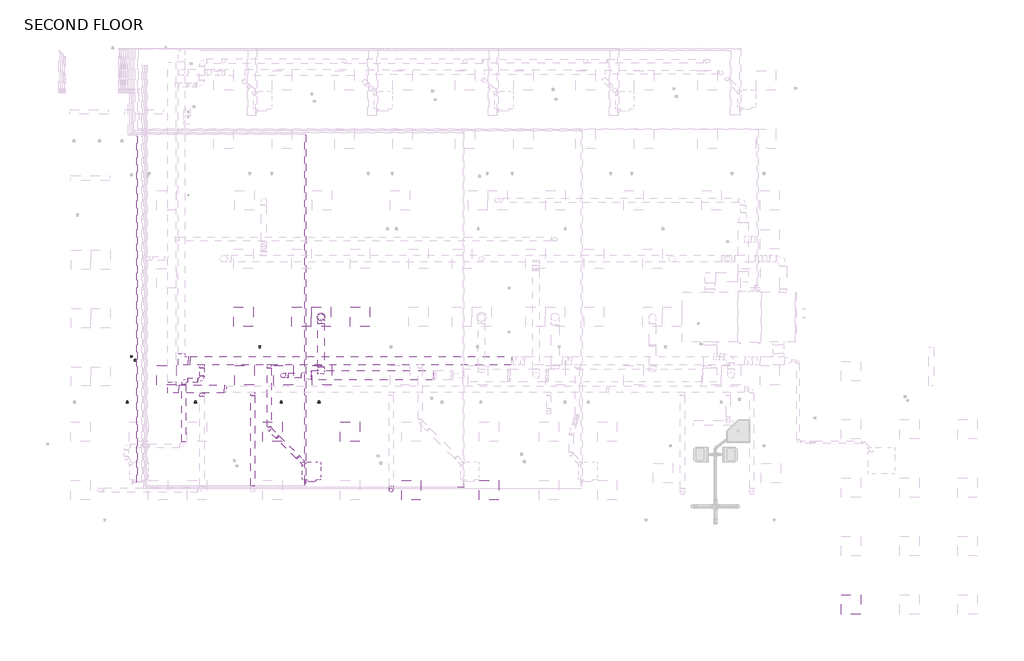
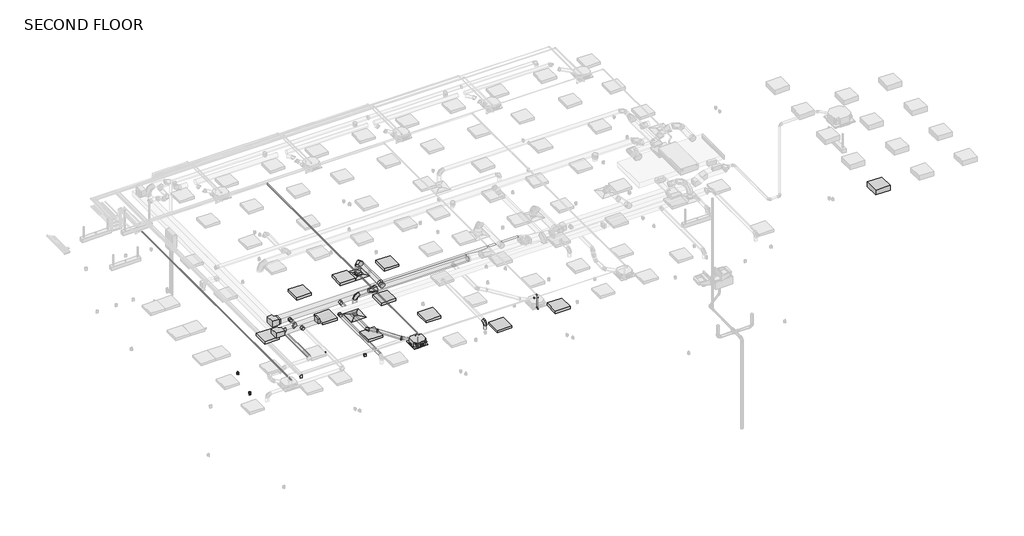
# One storey, part 2 of 12: 19 duct fittings, 16 duct segments, 11 light fixtures, 8 pipe segments, 7 pipe fittings, 4 proxies, 4 switching devices, 2 air terminals.
"""IFC4 building model written with IfcOpenShell, lengths in millimetres."""

from ifc_helpers import new_model, si_unit, point, frame, frame_2d, origin, place, context, project, spatial, polyline, circle_curve, trimmed, segment, composite_curve, outline, extrude, transform, mapped, element, save
from components import air_terminal_a1f6e78c, air_terminal_52af7c74, mechanical_equipment_2d84379e, duplex_receptacle_countertop_10251bba, oval_to_round_transition_length_standard_34fdf921, rectangular_elbow_mitered_transition_standard_34e7224c, rectangular_elbow_mitered_transition_standard_2c7a3de9, rectangular_transition_angle_45_degree_c4f24900, rectangular_transition_angle_45_degree_fab70002, round_elbow_1_d_311c5134, round_elbow_1_d_a253342a, round_elbow_1_d_b37ad80b, round_elbow_1_d_c80420c1, round_elbow_1_d_e3dc691b, round_takeoff_standard_dc6cb68b, round_takeoff_standard_7fe2b2d5, round_transition_angle_45_degree_2c0294df, troffer_corner_insert_2x2_3lamp_e67c7f8f, troffer_corner_insert_2x2_3lamp_high_profile_29e3a813, elbow_generic_standard_c06ac706, elbow_generic_standard_a088f956

model = new_model("IFC4")

# Units and contexts
model_context = context("Model", 3, world=origin())
ifc_project = project(units=[si_unit("LENGTHUNIT", "METRE", prefix="MILLI")], contexts=[model_context])

# Site, building, storey
site = spatial("IfcSite", under=ifc_project)
building = spatial("IfcBuilding", under=site)
storey = spatial("IfcBuildingStorey", under=building, Name="SECOND FLOOR", Elevation=34544.0)

# Air terminals
placement = place(None, origin())
air_terminal_shape = air_terminal_a1f6e78c(model_context)
element("IfcAirTerminal", 1, ObjectType="Supply Diffuser - Rectangular Face Round Neck - Hosted : 24\"x24\" Face 10\" Neck - Hosted", at=placement, inside=storey, context=model_context, shape_type="MappedRepresentation", body=[
    mapped(air_terminal_shape, transform((-1660.3642107, -751.4804995, 37287.2), x_axis=(-1.0, 0.0, 0.0), y_axis=(0.0, 1.0, 0.0), z_axis=(0.0, 0.0, -1.0))),
])
air_terminal_2_shape = air_terminal_52af7c74(model_context)
element("IfcAirTerminal", 2, ObjectType="Supply Diffuser - Rectangular Face Round Neck - Hosted : 24\"x24\" Face 6\" Neck - Hosted", at=placement, inside=storey, context=model_context, shape_type="MappedRepresentation", body=[
    mapped(air_terminal_2_shape, transform((-2847.0204607, -2580.2804995, 36982.4), x_axis=(-1.0, 0.0, 0.0), y_axis=(0.0, 1.0, 0.0), z_axis=(0.0, 0.0, -1.0))),
])

# Proxies
mechanical_equipment_shape = mechanical_equipment_2d84379e(model_context)
element("IfcBuildingElementProxy", 3, Name="PLFY-P-NCMU-E_4-way_24x24 : PLFY-P12NCMU-E", ObjectType="PLFY-P-NCMU-E_4-way_24x24 : PLFY-P12NCMU-E", at=placement, inside=storey, context=model_context, shape_type="MappedRepresentation", body=[
    mapped(mechanical_equipment_shape, transform((-1964.5292107, -5508.0657082, 37287.2), x_axis=(-1.0, 0.0, 0.0), y_axis=(0.0, 1.0, 0.0), z_axis=(0.0, 0.0, -1.0))),
])
duplex_receptacle_countertop_shape = duplex_receptacle_countertop_10251bba(model_context)
element("IfcBuildingElementProxy", 4, Name="Duplex Receptacle : Countertop", ObjectType="Duplex Receptacle : Countertop", at=placement, inside=storey, context=model_context, shape_type="MappedRepresentation", body=[
    mapped(duplex_receptacle_countertop_shape, transform((-7737.5045379, -3437.5304995, 35763.2), x_axis=(1.0, 0.0, 0.0), y_axis=(0.0, 0.0, 1.0), z_axis=(0.0, -1.0, 0.0))),
])
element("IfcBuildingElementProxy", 5, Name="Duplex Receptacle : Standard", ObjectType="Duplex Receptacle : Standard", at=placement, inside=storey, context=model_context, shape_type="MappedRepresentation", body=[
    mapped(duplex_receptacle_countertop_shape, transform((-3586.9084231, -1665.8804995, 35001.2), x_axis=(-1.0, 0.0, 0.0), y_axis=(0.0, 0.0, 1.0), z_axis=(0.0, 1.0, 0.0))),
])
element("IfcBuildingElementProxy", 6, Name="Duplex Receptacle : Standard", ObjectType="Duplex Receptacle : Standard", at=placement, inside=storey, context=model_context, shape_type="MappedRepresentation", body=[
    mapped(duplex_receptacle_countertop_shape, transform((-1729.6516875, -3437.5304995, 35001.2), x_axis=(1.0, 0.0, 0.0), y_axis=(0.0, 0.0, 1.0), z_axis=(0.0, -1.0, 0.0))),
])

# Duct fittings
oval_to_round_transition_length_standard_shape = oval_to_round_transition_length_standard_34fdf921(model_context)
element("IfcDuctFitting", 7, ObjectType="Oval to Round Transition - Length : Standard", at=placement, inside=storey, context=model_context, shape_type="MappedRepresentation", body=[
    mapped(oval_to_round_transition_length_standard_shape, transform((-1973.5862042, -2580.2804995, 37872.9293609), x_axis=(-1.0, 0.0, 0.0), y_axis=(0.0, -1.0, 0.0), z_axis=(0.0, 0.0, 1.0))),
])
rectangular_elbow_mitered_transition_standard_shape = rectangular_elbow_mitered_transition_standard_34e7224c(model_context)
element("IfcDuctFitting", 8, ObjectType="Rectangular Elbow - Mitered - Transition : Standard", at=placement, inside=storey, context=model_context, shape_type="MappedRepresentation", body=[
    mapped(rectangular_elbow_mitered_transition_standard_shape, transform((-6029.8204015, -2123.0804995, 37541.2), x_axis=(0.0, -1.0, 0.0), y_axis=(1.0, 0.0, 0.0), z_axis=(0.0, 0.0, 1.0))),
])
rectangular_elbow_mitered_transition_standard_2_shape = rectangular_elbow_mitered_transition_standard_2c7a3de9(model_context)
element("IfcDuctFitting", 9, ObjectType="Rectangular Elbow - Mitered - Transition : Standard", at=placement, inside=storey, context=model_context, shape_type="MappedRepresentation", body=[
    mapped(rectangular_elbow_mitered_transition_standard_2_shape, transform((-6347.3126806, -3010.2706668, 37693.6), x_axis=(0.0, -1.0, 0.0), y_axis=(1.0, 0.0, 0.0), z_axis=(0.0, 0.0, 1.0))),
])
rectangular_transition_angle_45_degree_shape = rectangular_transition_angle_45_degree_c4f24900(model_context)
element("IfcDuctFitting", 10, ObjectType="Rectangular Transition - Angle : 45 Degree", at=placement, inside=storey, context=model_context, shape_type="MappedRepresentation", body=[
    mapped(rectangular_transition_angle_45_degree_shape, transform((-5826.6204015, -2123.0804995, 37541.2), x_axis=(1.0, 0.0, 0.0), y_axis=(0.0, 1.0, 0.0), z_axis=(0.0, 0.0, 1.0))),
])
rectangular_transition_angle_45_degree_2_shape = rectangular_transition_angle_45_degree_fab70002(model_context)
element("IfcDuctFitting", 11, ObjectType="Rectangular Transition - Angle : 45 Degree", at=placement, inside=storey, context=model_context, shape_type="MappedRepresentation", body=[
    mapped(rectangular_transition_angle_45_degree_2_shape, transform((-4638.1666561, -3010.2706668, 37693.6), x_axis=(-1.0, 0.0, 0.0), y_axis=(0.0, -1.0, 0.0), z_axis=(0.0, 0.0, 1.0))),
])
round_elbow_1_d_shape = round_elbow_1_d_311c5134(model_context)
element("IfcDuctFitting", 12, ObjectType="Round Elbow : 1 D", at=placement, inside=storey, context=model_context, shape_type="MappedRepresentation", body=[
    mapped(round_elbow_1_d_shape, transform((-3027.5488286, -4513.6671316, 37541.2), x_axis=(0.7071067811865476, -0.7071067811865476, 0.0), y_axis=(0.0, 0.0, -1.0000000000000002), z_axis=(0.7071067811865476, 0.7071067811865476, 0.0))),
])
element("IfcDuctFitting", 13, ObjectType="Round Elbow : 1 D", at=placement, inside=storey, context=model_context, shape_type="MappedRepresentation", body=[
    mapped(round_elbow_1_d_shape, transform((-2391.6566692, -5149.559291, 37381.2593852), x_axis=(0.6961818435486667, -0.6961818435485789, -0.17510477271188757), y_axis=(0.12381777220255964, -0.12381777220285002, 0.9845498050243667), z_axis=(-0.7071067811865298, -0.7071067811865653, 0.0))),
])
round_elbow_1_d_2_shape = round_elbow_1_d_a253342a(model_context)
element("IfcDuctFitting", 14, ObjectType="Round Elbow : 1 D", at=placement, inside=storey, context=model_context, shape_type="MappedRepresentation", body=[
    mapped(round_elbow_1_d_2_shape, transform((-1660.3642107, -751.4804995, 37872.8882813), x_axis=(0.0, 1.0, 0.0), y_axis=(0.0, 0.0, -1.0), z_axis=(-1.0, 0.0, 0.0))),
])
round_elbow_1_d_3_shape = round_elbow_1_d_b37ad80b(model_context)
element("IfcDuctFitting", 15, ObjectType="Round Elbow : 1 D", at=placement, inside=storey, context=model_context, shape_type="MappedRepresentation", body=[
    mapped(round_elbow_1_d_3_shape, transform((-2847.0204607, -2580.2804995, 37872.9293609), x_axis=(0.0, 0.0, 1.0), y_axis=(1.0, 0.0, 0.0), z_axis=(0.0, 1.0, 0.0))),
])
round_elbow_1_d_4_shape = round_elbow_1_d_c80420c1(model_context)
element("IfcDuctFitting", 16, ObjectType="Round Elbow : 1 D", at=placement, inside=storey, context=model_context, shape_type="MappedRepresentation", body=[
    mapped(round_elbow_1_d_4_shape, transform((530.2420393, -6180.7304995, 37693.6), x_axis=(0.0, 0.0, 1.0), y_axis=(0.0, 1.0, 0.0), z_axis=(-1.0, 0.0, 0.0))),
])
element("IfcDuctFitting", 17, ObjectType="Round Elbow : 1 D", at=placement, inside=storey, context=model_context, shape_type="MappedRepresentation", body=[
    mapped(round_elbow_1_d_4_shape, transform((-5970.2349734, -2733.8247368, 37515.8), x_axis=(-1.0, 0.0, 0.0), y_axis=(0.0, -1.0, 0.0), z_axis=(0.0, 0.0, 1.0))),
])
element("IfcDuctFitting", 18, ObjectType="Round Elbow : 1 D", at=placement, inside=storey, context=model_context, shape_type="MappedRepresentation", body=[
    mapped(round_elbow_1_d_4_shape, transform((-5393.5292107, -2733.8247368, 37515.8), x_axis=(1.0, 0.0, 0.0), y_axis=(0.0, 1.0, 0.0), z_axis=(0.0, 0.0, 1.0))),
])
round_elbow_1_d_5_shape = round_elbow_1_d_e3dc691b(model_context)
element("IfcDuctFitting", 19, ObjectType="Round Elbow : 1 D", at=placement, inside=storey, context=model_context, shape_type="MappedRepresentation", body=[
    mapped(round_elbow_1_d_5_shape, transform((-3284.9773478, -4256.2386124, 37541.2), x_axis=(0.0, -1.0, 0.0), y_axis=(1.0, 0.0, 0.0), z_axis=(0.0, 0.0, 1.0))),
])
round_takeoff_standard_shape = round_takeoff_standard_dc6cb68b(model_context)
element("IfcDuctFitting", 20, ObjectType="Round Takeoff : Standard", at=placement, inside=storey, context=model_context, shape_type="MappedRepresentation", body=[
    mapped(round_takeoff_standard_shape, transform((-1660.3642107, -2427.8805078, 37872.8882813), x_axis=(0.0, 1.0, 0.0), y_axis=(1.0, 0.0, 0.0), z_axis=(0.0, 0.0, -1.0))),
])
round_takeoff_standard_2_shape = round_takeoff_standard_7fe2b2d5(model_context)
element("IfcDuctFitting", 21, ObjectType="Round Takeoff : Standard", at=placement, inside=storey, context=model_context, shape_type="MappedRepresentation", body=[
    mapped(round_takeoff_standard_2_shape, transform((-5393.5292107, -3137.2706668, 37693.6), x_axis=(0.0, -1.0, 0.0), y_axis=(-1.0, 0.0, 0.0), z_axis=(0.0, 0.0, -1.0))),
])
element("IfcDuctFitting", 22, ObjectType="Round Takeoff : Standard", at=placement, inside=storey, context=model_context, shape_type="MappedRepresentation", body=[
    mapped(round_takeoff_standard_2_shape, transform((-3798.8854607, -3111.8706668, 37693.6), x_axis=(0.0, -1.0, 0.0), y_axis=(-1.0, 0.0, 0.0), z_axis=(0.0, 0.0, -1.0))),
])
element("IfcDuctFitting", 23, ObjectType="Round Takeoff : Standard", at=placement, inside=storey, context=model_context, shape_type="MappedRepresentation", body=[
    mapped(round_takeoff_standard_2_shape, transform((-3284.9773478, -2250.0804995, 37541.2), x_axis=(0.0, -1.0, 0.0), y_axis=(-1.0, 0.0, 0.0), z_axis=(0.0, 0.0, -1.0))),
])
element("IfcDuctFitting", 24, ObjectType="Round Takeoff : Standard", at=placement, inside=storey, context=model_context, shape_type="MappedRepresentation", body=[
    mapped(round_takeoff_standard_2_shape, transform((-5393.5292107, -2250.0804995, 37515.8), x_axis=(0.0, -1.0, 0.0), y_axis=(-1.0, 0.0, 0.0), z_axis=(0.0, 0.0, -1.0))),
])
round_transition_angle_45_degree_shape = round_transition_angle_45_degree_2c0294df(model_context)
element("IfcDuctFitting", 25, ObjectType="Round Transition - Angle : 45 Degree", at=placement, inside=storey, context=model_context, shape_type="MappedRepresentation", body=[
    mapped(round_transition_angle_45_degree_shape, transform((-1660.3642107, -751.4804995, 37341.175), x_axis=(0.0, 0.0, 1.0), y_axis=(1.0, 0.0, 0.0), z_axis=(0.0, 1.0, 0.0))),
])

# Duct segments
element("IfcDuctSegment", 26, ObjectType="Mitered Elbows / Taps", at=placement, inside=storey, context=model_context, shape_type="SweptSolid", body=[
    extrude(outline(composite_curve([segment(polyline([(-2631.0804995, 37974.5293609), (-2529.4804995, 37974.5293609)]), True, "CONTINUOUS"), segment(trimmed(circle_curve(frame_2d((-2529.4804995, 37872.9293609)), 101.6), [point((-2529.4804995, 37974.5293609))], [point((-2427.8804995, 37872.9293609))], False, "CARTESIAN"), True, "CONTINUOUS"), segment(trimmed(circle_curve(frame_2d((-2529.4804995, 37872.9293609)), 101.6), [point((-2427.8804995, 37872.9293609))], [point((-2529.4804995, 37771.3293609))], False, "CARTESIAN"), True, "CONTINUOUS"), segment(polyline([(-2529.4804995, 37771.3293609), (-2631.0804995, 37771.3293609)]), True, "CONTINUOUS"), segment(trimmed(circle_curve(frame_2d((-2631.0804995, 37872.9293609)), 101.6), [point((-2631.0804995, 37771.3293609))], [point((-2732.6804995, 37872.9293609))], False, "CARTESIAN"), True, "CONTINUOUS"), segment(trimmed(circle_curve(frame_2d((-2631.0804995, 37872.9293609)), 101.6), [point((-2732.6804995, 37872.9293609))], [point((-2631.0804995, 37974.5293609))], False, "CARTESIAN"), True, "CONTINUOUS")], self_intersect=False)), frame((-1973.5862042, 0.0, 0.0), z_axis=(1.0, 0.0, 0.0), x_axis=(0.0, 1.0, 0.0)), (0.0, 0.0, 1.0), 3826.9739551),
])
element("IfcDuctSegment", 27, ObjectType="Mitered Elbows / Taps", at=placement, inside=storey, context=model_context, shape_type="SweptSolid", body=[
    extrude(outline(polyline([(-6118.7126806, -3137.2706668), (-6118.7126806, -2883.2706668), (-4699.4876806, -2883.2706668), (-4699.4876806, -3137.2706668), (-6118.7126806, -3137.2706668)])), frame((0.0, 0.0, 37592.0), z_axis=(0.0, 0.0, 1.0), x_axis=(1.0, 0.0, 0.0)), (0.0, 0.0, 1.0), 203.2),
])
element("IfcDuctSegment", 28, ObjectType="Radius Elbows / Taps", at=placement, inside=storey, context=model_context, shape_type="SweptSolid", body=[
    extrude(outline(polyline([(-5765.299377, -2250.0804995), (-5765.299377, -1996.0804995), (4310.5486467, -1996.0804995), (4310.5486467, -2250.0804995), (-5765.299377, -2250.0804995)])), frame((0.0, 0.0, 37439.6), z_axis=(0.0, 0.0, 1.0), x_axis=(1.0, 0.0, 0.0)), (0.0, 0.0, 1.0), 203.2),
])
element("IfcDuctSegment", 29, ObjectType="Taps / Short Radius", at=placement, inside=storey, context=model_context, shape_type="SweptSolid", body=[
    extrude(outline(composite_curve([segment(trimmed(circle_curve(frame_2d((-2580.2804995, 37872.9293609)), 76.2), [point((-2656.4804995, 37872.9293609))], [point((-2580.2804995, 37949.1293609))], False, "CARTESIAN"), True, "CONTINUOUS"), segment(trimmed(circle_curve(frame_2d((-2580.2804995, 37872.9293609)), 76.2), [point((-2580.2804995, 37949.1293609))], [point((-2504.0804995, 37872.9293609))], False, "CARTESIAN"), True, "CONTINUOUS"), segment(trimmed(circle_curve(frame_2d((-2580.2804995, 37872.9293609)), 76.2), [point((-2504.0804995, 37872.9293609))], [point((-2580.2804995, 37796.7293609))], False, "CARTESIAN"), True, "CONTINUOUS"), segment(trimmed(circle_curve(frame_2d((-2580.2804995, 37872.9293609)), 76.2), [point((-2580.2804995, 37796.7293609))], [point((-2656.4804995, 37872.9293609))], False, "CARTESIAN"), True, "CONTINUOUS")], self_intersect=False)), frame((-2694.6204607, 0.0, 0.0), z_axis=(1.0, 0.0, 0.0), x_axis=(0.0, 1.0, 0.0)), (0.0, 0.0, 1.0), 416.2342565),
])
element("IfcDuctSegment", 30, ObjectType="Taps / Short Radius", at=placement, inside=storey, context=model_context, shape_type="SweptSolid", body=[
    extrude(outline(composite_curve([segment(trimmed(circle_curve(frame_2d((-2847.0204607, -2580.2804995)), 76.2), [point((-2847.0204607, -2656.4804995))], [point((-2923.2204607, -2580.2804995))], False, "CARTESIAN"), True, "CONTINUOUS"), segment(trimmed(circle_curve(frame_2d((-2847.0204607, -2580.2804995)), 76.2), [point((-2923.2204607, -2580.2804995))], [point((-2847.0204607, -2504.0804995))], False, "CARTESIAN"), True, "CONTINUOUS"), segment(trimmed(circle_curve(frame_2d((-2847.0204607, -2580.2804995)), 76.2), [point((-2847.0204607, -2504.0804995))], [point((-2770.8204607, -2580.2804995))], False, "CARTESIAN"), True, "CONTINUOUS"), segment(trimmed(circle_curve(frame_2d((-2847.0204607, -2580.2804995)), 76.2), [point((-2770.8204607, -2580.2804995))], [point((-2847.0204607, -2656.4804995))], False, "CARTESIAN"), True, "CONTINUOUS")], self_intersect=False)), frame((0.0, 0.0, 37036.375), z_axis=(0.0, 0.0, 1.0), x_axis=(1.0, 0.0, 0.0)), (0.0, 0.0, 1.0), 684.1543609),
])
element("IfcDuctSegment", 31, ObjectType="Taps / Short Radius", at=placement, inside=storey, context=model_context, shape_type="SweptSolid", body=[
    extrude(outline(composite_curve([segment(trimmed(circle_curve(frame_2d((530.2420393, -6180.7304995)), 63.5), [point((593.7420393, -6180.7304995))], [point((530.2420393, -6244.2304995))], False, "CARTESIAN"), True, "CONTINUOUS"), segment(trimmed(circle_curve(frame_2d((530.2420393, -6180.7304995)), 63.5), [point((530.2420393, -6244.2304995))], [point((466.7420393, -6180.7304995))], False, "CARTESIAN"), True, "CONTINUOUS"), segment(trimmed(circle_curve(frame_2d((530.2420393, -6180.7304995)), 63.5), [point((466.7420393, -6180.7304995))], [point((530.2420393, -6117.2304995))], False, "CARTESIAN"), True, "CONTINUOUS"), segment(trimmed(circle_curve(frame_2d((530.2420393, -6180.7304995)), 63.5), [point((530.2420393, -6117.2304995))], [point((593.7420393, -6180.7304995))], False, "CARTESIAN"), True, "CONTINUOUS")], self_intersect=False)), frame((0.0, 0.0, 37388.8), z_axis=(0.0, 0.0, 1.0), x_axis=(1.0, 0.0, 0.0)), (0.0, 0.0, 1.0), 177.8),
])
element("IfcDuctSegment", 32, ObjectType="Taps / Short Radius", at=placement, inside=storey, context=model_context, shape_type="SweptSolid", body=[
    extrude(outline(composite_curve([segment(trimmed(circle_curve(frame_2d((37693.6, -3798.8854607)), 63.5), [point((37693.6, -3862.3854607))], [point((37630.1, -3798.8854607))], False, "CARTESIAN"), True, "CONTINUOUS"), segment(trimmed(circle_curve(frame_2d((37693.6, -3798.8854607)), 63.5), [point((37630.1, -3798.8854607))], [point((37693.6, -3735.3854607))], False, "CARTESIAN"), True, "CONTINUOUS"), segment(trimmed(circle_curve(frame_2d((37693.6, -3798.8854607)), 63.5), [point((37693.6, -3735.3854607))], [point((37757.1, -3798.8854607))], False, "CARTESIAN"), True, "CONTINUOUS"), segment(trimmed(circle_curve(frame_2d((37693.6, -3798.8854607)), 63.5), [point((37757.1, -3798.8854607))], [point((37693.6, -3862.3854607))], False, "CARTESIAN"), True, "CONTINUOUS")], self_intersect=False)), frame((0.0, -6053.7304995, 0.0), z_axis=(0.0, 1.0, 0.0), x_axis=(0.0, 0.0, 1.0)), (0.0, 0.0, 1.0), 2840.2598327),
])
element("IfcDuctSegment", 33, ObjectType="Taps / Short Radius", at=placement, inside=storey, context=model_context, shape_type="SweptSolid", body=[
    extrude(outline(composite_curve([segment(trimmed(circle_curve(frame_2d((37541.2, -3284.9773478)), 63.5), [point((37541.2, -3348.4773478))], [point((37477.7, -3284.9773478))], False, "CARTESIAN"), True, "CONTINUOUS"), segment(trimmed(circle_curve(frame_2d((37541.2, -3284.9773478)), 63.5), [point((37477.7, -3284.9773478))], [point((37541.2, -3221.4773478))], False, "CARTESIAN"), True, "CONTINUOUS"), segment(trimmed(circle_curve(frame_2d((37541.2, -3284.9773478)), 63.5), [point((37541.2, -3221.4773478))], [point((37604.7, -3284.9773478))], False, "CARTESIAN"), True, "CONTINUOUS"), segment(trimmed(circle_curve(frame_2d((37541.2, -3284.9773478)), 63.5), [point((37604.7, -3284.9773478))], [point((37541.2, -3348.4773478))], False, "CARTESIAN"), True, "CONTINUOUS")], self_intersect=False)), frame((0.0, -4203.63349, 0.0), z_axis=(0.0, 1.0, 0.0), x_axis=(0.0, 0.0, 1.0)), (0.0, 0.0, 1.0), 1851.9529905),
])
element("IfcDuctSegment", 34, ObjectType="Taps / Short Radius", at=placement, inside=storey, context=model_context, shape_type="SweptSolid", body=[
    extrude(outline(composite_curve([segment(trimmed(circle_curve(frame_2d((0.0, -63.5)), 63.5), [point((-63.5, -63.5))], [point((0.0, 0.0))], False, "CARTESIAN"), True, "CONTINUOUS"), segment(trimmed(circle_curve(frame_2d((0.0, -63.5)), 63.5), [point((0.0, 0.0))], [point((63.5, -63.5))], False, "CARTESIAN"), True, "CONTINUOUS"), segment(trimmed(circle_curve(frame_2d((0.0, -63.5)), 63.5), [point((63.5, -63.5))], [point((0.0, -127.0))], False, "CARTESIAN"), True, "CONTINUOUS"), segment(trimmed(circle_curve(frame_2d((0.0, -63.5)), 63.5), [point((0.0, -127.0))], [point((-63.5, -63.5))], False, "CARTESIAN"), True, "CONTINUOUS")], self_intersect=False)), frame((-3035.472468, -4505.7434922, 37477.7), z_axis=(-0.7071067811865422, 0.7071067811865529, 0.0), x_axis=(0.7071067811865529, 0.7071067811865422, 0.0)), (0.0, 0.0, 1.0), 300.2480624),
])
element("IfcDuctSegment", 35, ObjectType="Taps / Short Radius", at=placement, inside=storey, context=model_context, shape_type="SweptSolid", body=[
    extrude(outline(composite_curve([segment(trimmed(circle_curve(frame_2d((0.0, -63.5)), 63.5), [point((-62.5483216, -74.4525096))], [point((-10.9525097, -0.9516784))], False, "CARTESIAN"), True, "CONTINUOUS"), segment(trimmed(circle_curve(frame_2d((0.0, -63.5)), 63.5), [point((-10.9525097, -0.9516784))], [point((62.5483215, -52.5474904))], False, "CARTESIAN"), True, "CONTINUOUS"), segment(trimmed(circle_curve(frame_2d((0.0, -63.5)), 63.5), [point((62.5483215, -52.5474904))], [point((10.9525096, -126.0483215))], False, "CARTESIAN"), True, "CONTINUOUS"), segment(trimmed(circle_curve(frame_2d((0.0, -63.5)), 63.5), [point((10.9525096, -126.0483215))], [point((-62.5483216, -74.4525096))], False, "CARTESIAN"), True, "CONTINUOUS")], self_intersect=False)), frame((-2399.4578868, -5126.2688857, 37321.6396222), z_axis=(-0.6961818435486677, 0.6961818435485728, 0.1751047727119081), x_axis=(0.71786547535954, 0.675153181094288, 0.16981560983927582)), (0.0, 0.0, 1.0), 890.98808),
])
element("IfcDuctSegment", 36, ObjectType="Taps / Short Radius", at=placement, inside=storey, context=model_context, shape_type="SweptSolid", body=[
    extrude(outline(composite_curve([segment(trimmed(circle_curve(frame_2d((0.0, -63.5)), 63.5), [point((-63.5, -63.5))], [point((0.0, 0.0))], False, "CARTESIAN"), True, "CONTINUOUS"), segment(trimmed(circle_curve(frame_2d((0.0, -63.5)), 63.5), [point((0.0, 0.0))], [point((63.5, -63.5))], False, "CARTESIAN"), True, "CONTINUOUS"), segment(trimmed(circle_curve(frame_2d((0.0, -63.5)), 63.5), [point((63.5, -63.5))], [point((0.0, -127.0))], False, "CARTESIAN"), True, "CONTINUOUS"), segment(trimmed(circle_curve(frame_2d((0.0, -63.5)), 63.5), [point((0.0, -127.0))], [point((-63.5, -63.5))], False, "CARTESIAN"), True, "CONTINUOUS")], self_intersect=False)), frame((-2171.4255888, -5369.7903714, 37317.7593852), z_axis=(-0.70710678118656, 0.7071067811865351, 0.0), x_axis=(0.7071067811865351, 0.70710678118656, 0.0)), (0.0, 0.0, 1.0), 300.2480624),
])
element("IfcDuctSegment", 37, ObjectType="Taps / Short Radius", at=placement, inside=storey, context=model_context, shape_type="SweptSolid", body=[
    extrude(outline(composite_curve([segment(trimmed(circle_curve(frame_2d((37515.8, -5970.2349734)), 63.5), [point((37515.8, -5906.7349734))], [point((37579.3, -5970.2349734))], False, "CARTESIAN"), True, "CONTINUOUS"), segment(trimmed(circle_curve(frame_2d((37515.8, -5970.2349734)), 63.5), [point((37579.3, -5970.2349734))], [point((37515.8, -6033.7349734))], False, "CARTESIAN"), True, "CONTINUOUS"), segment(trimmed(circle_curve(frame_2d((37515.8, -5970.2349734)), 63.5), [point((37515.8, -6033.7349734))], [point((37452.3, -5970.2349734))], False, "CARTESIAN"), True, "CONTINUOUS"), segment(trimmed(circle_curve(frame_2d((37515.8, -5970.2349734)), 63.5), [point((37452.3, -5970.2349734))], [point((37515.8, -5906.7349734))], False, "CARTESIAN"), True, "CONTINUOUS")], self_intersect=False)), frame((0.0, -4664.2247368, 0.0), z_axis=(0.0, 1.0, 0.0), x_axis=(0.0, 0.0, 1.0)), (0.0, 0.0, 1.0), 1803.4),
])
element("IfcDuctSegment", 38, ObjectType="Taps / Short Radius", at=placement, inside=storey, context=model_context, shape_type="SweptSolid", body=[
    extrude(outline(composite_curve([segment(trimmed(circle_curve(frame_2d((-2733.8247368, 37515.8)), 63.5), [point((-2797.3247368, 37515.8))], [point((-2733.8247368, 37579.3))], False, "CARTESIAN"), True, "CONTINUOUS"), segment(trimmed(circle_curve(frame_2d((-2733.8247368, 37515.8)), 63.5), [point((-2733.8247368, 37579.3))], [point((-2670.3247368, 37515.8))], False, "CARTESIAN"), True, "CONTINUOUS"), segment(trimmed(circle_curve(frame_2d((-2733.8247368, 37515.8)), 63.5), [point((-2670.3247368, 37515.8))], [point((-2733.8247368, 37452.3))], False, "CARTESIAN"), True, "CONTINUOUS"), segment(trimmed(circle_curve(frame_2d((-2733.8247368, 37515.8)), 63.5), [point((-2733.8247368, 37452.3))], [point((-2797.3247368, 37515.8))], False, "CARTESIAN"), True, "CONTINUOUS")], self_intersect=False)), frame((-5843.2349734, 0.0, 0.0), z_axis=(1.0, 0.0, 0.0), x_axis=(0.0, 1.0, 0.0)), (0.0, 0.0, 1.0), 322.7057627),
])
element("IfcDuctSegment", 39, ObjectType="Taps / Short Radius", at=placement, inside=storey, context=model_context, shape_type="SweptSolid", body=[
    extrude(outline(composite_curve([segment(trimmed(circle_curve(frame_2d((37515.8, -5393.5292107)), 63.5), [point((37515.8, -5330.0292107))], [point((37579.3, -5393.5292107))], False, "CARTESIAN"), True, "CONTINUOUS"), segment(trimmed(circle_curve(frame_2d((37515.8, -5393.5292107)), 63.5), [point((37579.3, -5393.5292107))], [point((37515.8, -5457.0292107))], False, "CARTESIAN"), True, "CONTINUOUS"), segment(trimmed(circle_curve(frame_2d((37515.8, -5393.5292107)), 63.5), [point((37515.8, -5457.0292107))], [point((37452.3, -5393.5292107))], False, "CARTESIAN"), True, "CONTINUOUS"), segment(trimmed(circle_curve(frame_2d((37515.8, -5393.5292107)), 63.5), [point((37452.3, -5393.5292107))], [point((37515.8, -5330.0292107))], False, "CARTESIAN"), True, "CONTINUOUS")], self_intersect=False)), frame((0.0, -2606.8247368, 0.0), z_axis=(0.0, 1.0, 0.0), x_axis=(0.0, 0.0, 1.0)), (0.0, 0.0, 1.0), 255.1442373),
])
element("IfcDuctSegment", 40, ObjectType="Taps / Short Radius", at=placement, inside=storey, context=model_context, shape_type="SweptSolid", body=[
    extrude(outline(composite_curve([segment(trimmed(circle_curve(frame_2d((37872.8882813, -1660.3642107)), 101.6), [point((37872.8882813, -1558.7642107))], [point((37974.4882812, -1660.3642107))], False, "CARTESIAN"), True, "CONTINUOUS"), segment(trimmed(circle_curve(frame_2d((37872.8882813, -1660.3642107)), 101.6), [point((37974.4882812, -1660.3642107))], [point((37872.8882813, -1761.9642107))], False, "CARTESIAN"), True, "CONTINUOUS"), segment(trimmed(circle_curve(frame_2d((37872.8882813, -1660.3642107)), 101.6), [point((37872.8882813, -1761.9642107))], [point((37771.2882813, -1660.3642107))], False, "CARTESIAN"), True, "CONTINUOUS"), segment(trimmed(circle_curve(frame_2d((37872.8882813, -1660.3642107)), 101.6), [point((37771.2882813, -1660.3642107))], [point((37872.8882813, -1558.7642107))], False, "CARTESIAN"), True, "CONTINUOUS")], self_intersect=False)), frame((0.0, -2326.2805078, 0.0), z_axis=(0.0, 1.0, 0.0), x_axis=(0.0, 0.0, 1.0)), (0.0, 0.0, 1.0), 1371.6000083),
])
element("IfcDuctSegment", 41, ObjectType="Taps / Short Radius", at=placement, inside=storey, context=model_context, shape_type="SweptSolid", body=[
    extrude(outline(composite_curve([segment(trimmed(circle_curve(frame_2d((-1660.3642107, -751.4804995)), 101.6), [point((-1761.9642107, -751.4804995))], [point((-1660.3642107, -649.8804995))], False, "CARTESIAN"), True, "CONTINUOUS"), segment(trimmed(circle_curve(frame_2d((-1660.3642107, -751.4804995)), 101.6), [point((-1660.3642107, -649.8804995))], [point((-1558.7642107, -751.4804995))], False, "CARTESIAN"), True, "CONTINUOUS"), segment(trimmed(circle_curve(frame_2d((-1660.3642107, -751.4804995)), 101.6), [point((-1558.7642107, -751.4804995))], [point((-1660.3642107, -853.0804995))], False, "CARTESIAN"), True, "CONTINUOUS"), segment(trimmed(circle_curve(frame_2d((-1660.3642107, -751.4804995)), 101.6), [point((-1660.3642107, -853.0804995))], [point((-1761.9642107, -751.4804995))], False, "CARTESIAN"), True, "CONTINUOUS")], self_intersect=False)), frame((0.0, 0.0, 37402.4960245), z_axis=(0.0, 0.0, 1.0), x_axis=(1.0, 0.0, 0.0)), (0.0, 0.0, 1.0), 267.1922568),
])

# Light fixtures
troffer_corner_insert_2x2_3lamp_shape = troffer_corner_insert_2x2_3lamp_e67c7f8f(model_context)
element("IfcLightFixture", 42, ObjectType="Troffer Corner Insert : 2x2 3Lamp", at=placement, inside=storey, context=model_context, shape_type="MappedRepresentation", body=[
    mapped(troffer_corner_insert_2x2_3lamp_shape, transform((1161.7345393, -6180.7304995, 34848.8), x_axis=(1.0, 0.0, 0.0), y_axis=(0.0, 1.0, 0.0), z_axis=(0.0, 0.0, 1.0))),
])
element("IfcLightFixture", 43, ObjectType="Troffer Corner Insert : 2x2 3Lamp", at=placement, inside=storey, context=model_context, shape_type="MappedRepresentation", body=[
    mapped(troffer_corner_insert_2x2_3lamp_shape, transform((3600.1345393, -6180.7304995, 34848.8), x_axis=(1.0, 0.0, 0.0), y_axis=(0.0, 1.0, 0.0), z_axis=(0.0, 0.0, 1.0))),
])
element("IfcLightFixture", 44, ObjectType="Troffer Corner Insert : 2x2 3Lamp", at=placement, inside=storey, context=model_context, shape_type="MappedRepresentation", body=[
    mapped(troffer_corner_insert_2x2_3lamp_shape, transform((-3189.2854607, -4351.9304995, 34848.8), x_axis=(1.0, 0.0, 0.0), y_axis=(0.0, 1.0, 0.0), z_axis=(0.0, 0.0, 1.0))),
])
element("IfcLightFixture", 45, ObjectType="Troffer Corner Insert : 2x2 3Lamp", at=placement, inside=storey, context=model_context, shape_type="MappedRepresentation", body=[
    mapped(troffer_corner_insert_2x2_3lamp_shape, transform((-750.8854607, -4351.9304995, 34848.8), x_axis=(1.0, 0.0, 0.0), y_axis=(0.0, 1.0, 0.0), z_axis=(0.0, 0.0, 1.0))),
])
element("IfcLightFixture", 46, ObjectType="Troffer Corner Insert : 2x2 3Lamp", at=placement, inside=storey, context=model_context, shape_type="MappedRepresentation", body=[
    mapped(troffer_corner_insert_2x2_3lamp_shape, transform((-6504.6204607, -2580.2804995, 34848.8), x_axis=(1.0, 0.0, 0.0), y_axis=(0.0, 1.0, 0.0), z_axis=(0.0, 0.0, 1.0))),
])
element("IfcLightFixture", 47, ObjectType="Troffer Corner Insert : 2x2 3Lamp", at=placement, inside=storey, context=model_context, shape_type="MappedRepresentation", body=[
    mapped(troffer_corner_insert_2x2_3lamp_shape, transform((-4066.2204607, -2580.2804995, 34848.8), x_axis=(1.0, 0.0, 0.0), y_axis=(0.0, 1.0, 0.0), z_axis=(0.0, 0.0, 1.0))),
])
element("IfcLightFixture", 48, ObjectType="Troffer Corner Insert : 2x2 3Lamp", at=placement, inside=storey, context=model_context, shape_type="MappedRepresentation", body=[
    mapped(troffer_corner_insert_2x2_3lamp_shape, transform((-1627.8204607, -2580.2804995, 34848.8), x_axis=(1.0, 0.0, 0.0), y_axis=(0.0, 1.0, 0.0), z_axis=(0.0, 0.0, 1.0))),
])
element("IfcLightFixture", 49, ObjectType="Troffer Corner Insert : 2x2 3Lamp", at=placement, inside=storey, context=model_context, shape_type="MappedRepresentation", body=[
    mapped(troffer_corner_insert_2x2_3lamp_shape, transform((-4098.7642107, -751.4804995, 34848.8), x_axis=(1.0, 0.0, 0.0), y_axis=(0.0, 1.0, 0.0), z_axis=(0.0, 0.0, 1.0))),
])
element("IfcLightFixture", 50, ObjectType="Troffer Corner Insert : 2x2 3Lamp", at=placement, inside=storey, context=model_context, shape_type="MappedRepresentation", body=[
    mapped(troffer_corner_insert_2x2_3lamp_shape, transform((-2269.9642107, -751.4804995, 34848.8), x_axis=(1.0, 0.0, 0.0), y_axis=(0.0, 1.0, 0.0), z_axis=(0.0, 0.0, 1.0))),
])
element("IfcLightFixture", 51, ObjectType="Troffer Corner Insert : 2x2 3Lamp", at=placement, inside=storey, context=model_context, shape_type="MappedRepresentation", body=[
    mapped(troffer_corner_insert_2x2_3lamp_shape, transform((-441.1642107, -751.4804995, 34848.8), x_axis=(1.0, 0.0, 0.0), y_axis=(0.0, 1.0, 0.0), z_axis=(0.0, 0.0, 1.0))),
])
troffer_corner_insert_2x2_3lamp_high_profile_shape = troffer_corner_insert_2x2_3lamp_high_profile_29e3a813(model_context)
element("IfcLightFixture", 52, ObjectType="Troffer Corner Insert : 2x2 3Lamp High Profile", at=placement, inside=storey, context=model_context, shape_type="MappedRepresentation", body=[
    mapped(troffer_corner_insert_2x2_3lamp_high_profile_shape, transform((14938.3445338, -9762.1304995, 38303.2), x_axis=(1.0, 0.0, 0.0), y_axis=(0.0, 1.0, 0.0), z_axis=(0.0, 0.0, 1.0))),
])

# Pipe fittings
elbow_generic_standard_shape = elbow_generic_standard_c06ac706(model_context)
element("IfcPipeFitting", 53, ObjectType="Elbow - Generic : Standard", at=placement, inside=storey, context=model_context, shape_type="MappedRepresentation", body=[
    mapped(elbow_generic_standard_shape, transform((2797.6532893, -6003.7662656, 37998.4), x_axis=(0.0, 0.0, 1.0), y_axis=(0.0, 1.0, 0.0), z_axis=(-1.0, 0.0, 0.0))),
])
element("IfcPipeFitting", 54, ObjectType="Elbow - Generic : Standard", at=placement, inside=storey, context=model_context, shape_type="MappedRepresentation", body=[
    mapped(elbow_generic_standard_shape, transform((2797.6532893, -6003.7662656, 37437.2187602), x_axis=(0.0, -1.0, 0.0), y_axis=(0.0, 0.0, 1.0), z_axis=(-1.0, 0.0, 0.0))),
])
element("IfcPipeFitting", 55, ObjectType="Elbow - Generic : Standard", at=placement, inside=storey, context=model_context, shape_type="MappedRepresentation", body=[
    mapped(elbow_generic_standard_shape, transform((-2162.9667107, -5960.0791744, 37437.2187602), x_axis=(0.0, -1.0, 0.0), y_axis=(0.0, 0.0, 1.0), z_axis=(-1.0, 0.0, 0.0))),
])
elbow_generic_standard_2_shape = elbow_generic_standard_a088f956(model_context)
element("IfcPipeFitting", 56, ObjectType="Elbow - Generic : Standard", at=placement, inside=storey, context=model_context, shape_type="MappedRepresentation", body=[
    mapped(elbow_generic_standard_2_shape, transform((2630.2330235, -6083.8929995, 37998.4), x_axis=(1.0, 0.0, 0.0), y_axis=(0.0, 0.0, -1.0), z_axis=(0.0, 1.0, 0.0))),
])
element("IfcPipeFitting", 57, ObjectType="Elbow - Generic : Standard", at=placement, inside=storey, context=model_context, shape_type="MappedRepresentation", body=[
    mapped(elbow_generic_standard_2_shape, transform((2630.2330235, -6083.8929995, 37944.4250102), x_axis=(0.0, 0.0, -1.0), y_axis=(1.0, 0.0, 0.0), z_axis=(0.0, -1.0, 0.0))),
])
element("IfcPipeFitting", 58, ObjectType="Elbow - Generic : Standard", at=placement, inside=storey, context=model_context, shape_type="MappedRepresentation", body=[
    mapped(elbow_generic_standard_2_shape, transform((2794.4782893, -6083.8929995, 37944.4250102), x_axis=(1.0, 0.0, 0.0), y_axis=(0.0, 0.0, -1.0), z_axis=(0.0, 1.0, 0.0))),
])
element("IfcPipeFitting", 59, ObjectType="Elbow - Generic : Standard", at=placement, inside=storey, context=model_context, shape_type="MappedRepresentation", body=[
    mapped(elbow_generic_standard_2_shape, transform((2794.4782893, -6083.8929995, 37407.8500102), x_axis=(0.0, -1.0, 0.0), y_axis=(0.0, 0.0, 1.0), z_axis=(-1.0, 0.0, 0.0))),
])

# Pipe segments
element("IfcPipeSegment", 60, ObjectType="Copper Tubing", at=placement, inside=storey, context=model_context, shape_type="SweptSolid", body=[
    extrude(outline(composite_curve([segment(trimmed(circle_curve(frame_2d((37998.4, -2162.9667107)), 14.2875), [point((37998.4, -2148.6792107))], [point((38012.6875, -2162.9667107))], False, "CARTESIAN"), True, "CONTINUOUS"), segment(trimmed(circle_curve(frame_2d((37998.4, -2162.9667107)), 14.2875), [point((38012.6875, -2162.9667107))], [point((37998.4, -2177.2542107))], False, "CARTESIAN"), True, "CONTINUOUS"), segment(trimmed(circle_curve(frame_2d((37998.4, -2162.9667107)), 14.2875), [point((37998.4, -2177.2542107))], [point((37984.1125, -2162.9667107))], False, "CARTESIAN"), True, "CONTINUOUS"), segment(trimmed(circle_curve(frame_2d((37998.4, -2162.9667107)), 14.2875), [point((37984.1125, -2162.9667107))], [point((37998.4, -2148.6792107))], False, "CARTESIAN"), True, "CONTINUOUS")], self_intersect=False)), frame((0.0, -5939.4416744, 0.0), z_axis=(0.0, 1.0, 0.0), x_axis=(0.0, 0.0, 1.0)), (0.0, 0.0, 1.0), 10902.0743054),
])
element("IfcPipeSegment", 61, ObjectType="Copper Tubing", at=placement, inside=storey, context=model_context, shape_type="SweptSolid", body=[
    extrude(outline(composite_curve([segment(trimmed(circle_curve(frame_2d((2797.6532893, -6003.7662656)), 14.2875), [point((2811.9407893, -6003.7662656))], [point((2797.6532893, -6018.0537656))], False, "CARTESIAN"), True, "CONTINUOUS"), segment(trimmed(circle_curve(frame_2d((2797.6532893, -6003.7662656)), 14.2875), [point((2797.6532893, -6018.0537656))], [point((2783.3657893, -6003.7662656))], False, "CARTESIAN"), True, "CONTINUOUS"), segment(trimmed(circle_curve(frame_2d((2797.6532893, -6003.7662656)), 14.2875), [point((2783.3657893, -6003.7662656))], [point((2797.6532893, -5989.4787656))], False, "CARTESIAN"), True, "CONTINUOUS"), segment(trimmed(circle_curve(frame_2d((2797.6532893, -6003.7662656)), 14.2875), [point((2797.6532893, -5989.4787656))], [point((2811.9407893, -6003.7662656))], False, "CARTESIAN"), True, "CONTINUOUS")], self_intersect=False)), frame((0.0, 0.0, 37457.8562602), z_axis=(0.0, 0.0, 1.0), x_axis=(1.0, 0.0, 0.0)), (0.0, 0.0, 1.0), 519.9062398),
])
element("IfcPipeSegment", 62, ObjectType="Copper Tubing", at=placement, inside=storey, context=model_context, shape_type="SweptSolid", body=[
    extrude(outline(composite_curve([segment(trimmed(circle_curve(frame_2d((2794.4782893, -6083.8929995)), 7.9375), [point((2802.4157893, -6083.8929995))], [point((2794.4782893, -6091.8304995))], False, "CARTESIAN"), True, "CONTINUOUS"), segment(trimmed(circle_curve(frame_2d((2794.4782893, -6083.8929995)), 7.9375), [point((2794.4782893, -6091.8304995))], [point((2786.5407893, -6083.8929995))], False, "CARTESIAN"), True, "CONTINUOUS"), segment(trimmed(circle_curve(frame_2d((2794.4782893, -6083.8929995)), 7.9375), [point((2786.5407893, -6083.8929995))], [point((2794.4782893, -6075.9554995))], False, "CARTESIAN"), True, "CONTINUOUS"), segment(trimmed(circle_curve(frame_2d((2794.4782893, -6083.8929995)), 7.9375), [point((2794.4782893, -6075.9554995))], [point((2802.4157893, -6083.8929995))], False, "CARTESIAN"), True, "CONTINUOUS")], self_intersect=False)), frame((0.0, 0.0, 37422.1375102), z_axis=(0.0, 0.0, 1.0), x_axis=(1.0, 0.0, 0.0)), (0.0, 0.0, 1.0), 507.9999999),
])
element("IfcPipeSegment", 63, ObjectType="Copper Tubing", at=placement, inside=storey, context=model_context, shape_type="SweptSolid", body=[
    extrude(outline(composite_curve([segment(trimmed(circle_curve(frame_2d((2630.2330235, -6083.8929995)), 7.9375), [point((2638.1705235, -6083.8929995))], [point((2630.2330235, -6091.8304995))], False, "CARTESIAN"), True, "CONTINUOUS"), segment(trimmed(circle_curve(frame_2d((2630.2330235, -6083.8929995)), 7.9375), [point((2630.2330235, -6091.8304995))], [point((2622.2955235, -6083.8929995))], False, "CARTESIAN"), True, "CONTINUOUS"), segment(trimmed(circle_curve(frame_2d((2630.2330235, -6083.8929995)), 7.9375), [point((2622.2955235, -6083.8929995))], [point((2630.2330235, -6075.9554995))], False, "CARTESIAN"), True, "CONTINUOUS"), segment(trimmed(circle_curve(frame_2d((2630.2330235, -6083.8929995)), 7.9375), [point((2630.2330235, -6075.9554995))], [point((2638.1705235, -6083.8929995))], False, "CARTESIAN"), True, "CONTINUOUS")], self_intersect=False)), frame((0.0, 0.0, 37958.7125102), z_axis=(0.0, 0.0, 1.0), x_axis=(1.0, 0.0, 0.0)), (0.0, 0.0, 1.0), 25.3999898),
])
element("IfcPipeSegment", 64, ObjectType="Copper Tubing", at=placement, inside=storey, context=model_context, shape_type="SweptSolid", body=[
    extrude(outline(composite_curve([segment(trimmed(circle_curve(frame_2d((-6083.8929995, 37944.4250102)), 7.9375), [point((-6091.8304995, 37944.4250102))], [point((-6083.8929995, 37952.3625102))], False, "CARTESIAN"), True, "CONTINUOUS"), segment(trimmed(circle_curve(frame_2d((-6083.8929995, 37944.4250102)), 7.9375), [point((-6083.8929995, 37952.3625102))], [point((-6075.9554995, 37944.4250102))], False, "CARTESIAN"), True, "CONTINUOUS"), segment(trimmed(circle_curve(frame_2d((-6083.8929995, 37944.4250102)), 7.9375), [point((-6075.9554995, 37944.4250102))], [point((-6083.8929995, 37936.4875102))], False, "CARTESIAN"), True, "CONTINUOUS"), segment(trimmed(circle_curve(frame_2d((-6083.8929995, 37944.4250102)), 7.9375), [point((-6083.8929995, 37936.4875102))], [point((-6091.8304995, 37944.4250102))], False, "CARTESIAN"), True, "CONTINUOUS")], self_intersect=False)), frame((2644.5205235, 0.0, 0.0), z_axis=(1.0, 0.0, 0.0), x_axis=(0.0, 1.0, 0.0)), (0.0, 0.0, 1.0), 135.6702658),
])
element("IfcPipeSegment", 65, ObjectType="Copper Tubing", at=placement, inside=storey, context=model_context, shape_type="SweptSolid", body=[
    extrude(outline(composite_curve([segment(trimmed(circle_curve(frame_2d((-2162.9667107, -5960.0791744)), 14.2875), [point((-2148.6792107, -5960.0791744))], [point((-2162.9667107, -5974.3666744))], False, "CARTESIAN"), True, "CONTINUOUS"), segment(trimmed(circle_curve(frame_2d((-2162.9667107, -5960.0791744)), 14.2875), [point((-2162.9667107, -5974.3666744))], [point((-2177.2542107, -5960.0791744))], False, "CARTESIAN"), True, "CONTINUOUS"), segment(trimmed(circle_curve(frame_2d((-2162.9667107, -5960.0791744)), 14.2875), [point((-2177.2542107, -5960.0791744))], [point((-2162.9667107, -5945.7916744))], False, "CARTESIAN"), True, "CONTINUOUS"), segment(trimmed(circle_curve(frame_2d((-2162.9667107, -5960.0791744)), 14.2875), [point((-2162.9667107, -5945.7916744))], [point((-2148.6792107, -5960.0791744))], False, "CARTESIAN"), True, "CONTINUOUS")], self_intersect=False)), frame((0.0, 0.0, 37457.8562602), z_axis=(0.0, 0.0, 1.0), x_axis=(1.0, 0.0, 0.0)), (0.0, 0.0, 1.0), 519.9062398),
])
element("IfcPipeSegment", 66, ObjectType="Copper Tubing", at=placement, inside=storey, context=model_context, shape_type="SweptSolid", body=[
    extrude(outline(composite_curve([segment(trimmed(circle_curve(frame_2d((37407.8500102, -2166.1417107)), 7.9375), [point((37407.8500102, -2174.0792107))], [point((37399.9125102, -2166.1417107))], False, "CARTESIAN"), True, "CONTINUOUS"), segment(trimmed(circle_curve(frame_2d((37407.8500102, -2166.1417107)), 7.9375), [point((37399.9125102, -2166.1417107))], [point((37407.8500102, -2158.2042107))], False, "CARTESIAN"), True, "CONTINUOUS"), segment(trimmed(circle_curve(frame_2d((37407.8500102, -2166.1417107)), 7.9375), [point((37407.8500102, -2158.2042107))], [point((37415.7875102, -2166.1417107))], False, "CARTESIAN"), True, "CONTINUOUS"), segment(trimmed(circle_curve(frame_2d((37407.8500102, -2166.1417107)), 7.9375), [point((37415.7875102, -2166.1417107))], [point((37407.8500102, -2174.0792107))], False, "CARTESIAN"), True, "CONTINUOUS")], self_intersect=False)), frame((0.0, -6018.8054995, 0.0), z_axis=(0.0, 1.0, 0.0), x_axis=(0.0, 0.0, 1.0)), (0.0, 0.0, 1.0), 157.1625),
])
element("IfcPipeSegment", 67, ObjectType="Copper Tubing", at=placement, inside=storey, context=model_context, shape_type="SweptSolid", body=[
    extrude(outline(composite_curve([segment(trimmed(circle_curve(frame_2d((37744.4, -7430.4504607)), 14.2875), [point((37744.4, -7444.7379607))], [point((37730.1125, -7430.4504607))], False, "CARTESIAN"), True, "CONTINUOUS"), segment(trimmed(circle_curve(frame_2d((37744.4, -7430.4504607)), 14.2875), [point((37730.1125, -7430.4504607))], [point((37744.4, -7416.1629607))], False, "CARTESIAN"), True, "CONTINUOUS"), segment(trimmed(circle_curve(frame_2d((37744.4, -7430.4504607)), 14.2875), [point((37744.4, -7416.1629607))], [point((37758.6875, -7430.4504607))], False, "CARTESIAN"), True, "CONTINUOUS"), segment(trimmed(circle_curve(frame_2d((37744.4, -7430.4504607)), 14.2875), [point((37758.6875, -7430.4504607))], [point((37744.4, -7444.7379607))], False, "CARTESIAN"), True, "CONTINUOUS")], self_intersect=False)), frame((0.0, -5922.8517377, 0.0), z_axis=(0.0, 1.0, 0.0), x_axis=(0.0, 0.0, 1.0)), (0.0, 0.0, 1.0), 10848.603338),
])

# Switching devices
element("IfcSwitchingDevice", 68, ObjectType="Lighting Switches : Single Pole", at=placement, inside=storey, context=model_context, shape_type="MappedRepresentation", body=[
    mapped(duplex_receptacle_countertop_shape, transform((-5595.9244435, -3437.5304995, 35763.2), x_axis=(1.0, 0.0, 0.0), y_axis=(0.0, 0.0, 1.0), z_axis=(0.0, -1.0, 0.0))),
])
element("IfcSwitchingDevice", 69, ObjectType="Lighting Switches : Single Pole", at=placement, inside=storey, context=model_context, shape_type="MappedRepresentation", body=[
    mapped(duplex_receptacle_countertop_shape, transform((-2914.4383692, -3437.5304995, 35763.2), x_axis=(1.0, 0.0, 0.0), y_axis=(0.0, 0.0, 1.0), z_axis=(0.0, -1.0, 0.0))),
])
element("IfcSwitchingDevice", 70, ObjectType="Lighting Switches : Three Way", at=placement, inside=storey, context=model_context, shape_type="MappedRepresentation", body=[
    mapped(duplex_receptacle_countertop_shape, transform((-7469.8204607, -2108.8125171, 35763.2), x_axis=(0.0, 1.0, 0.0), y_axis=(0.0, 0.0, 1.0), z_axis=(1.0, 0.0, 0.0))),
])
element("IfcSwitchingDevice", 71, ObjectType="Lighting Switches : Three Way", at=placement, inside=storey, context=model_context, shape_type="MappedRepresentation", body=[
    mapped(duplex_receptacle_countertop_shape, transform((-7625.3954607, -1992.2261661, 35458.4), x_axis=(0.0, -1.0, 0.0), y_axis=(0.0, 0.0, 1.0), z_axis=(-1.0, 0.0, 0.0))),
])

save(model, "model.ifc")
